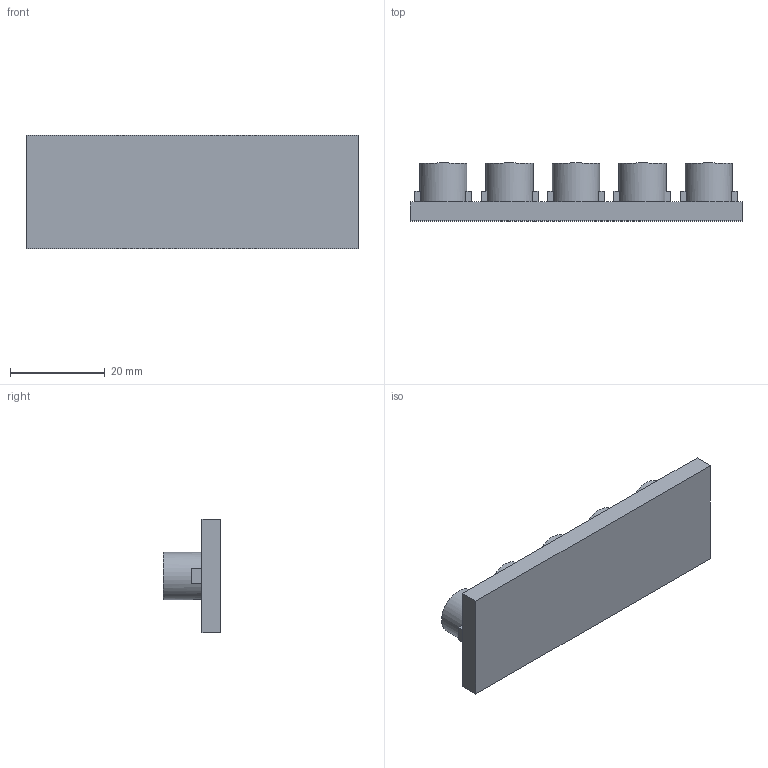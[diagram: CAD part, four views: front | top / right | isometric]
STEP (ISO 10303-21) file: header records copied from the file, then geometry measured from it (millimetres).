
FILE_DESCRIPTION(('FreeCAD Model'),'2;1');
FILE_NAME('Open CASCADE Shape Model','2026-09-11T23:32:08',('FreeCAD'),( 'FreeCAD'),'Open CASCADE STEP processor 7.8','FreeCAD','Unknown');
FILE_SCHEMA(('AUTOMOTIVE_DESIGN { 1 0 10303 214 1 1 1 1 }'));
Length unit declared in the file: millimetre
Products named in the file (1): Open CASCADE STEP translator 7.8 20
Bounding box: 70 x 12.2 x 24 mm (x, y, z)
Volume: 9595.1 mm3; surface area: 5875.3 mm2
Topology: 1 solids, 1 shells, 66 faces, 162 edges, 108 vertices
Faces by surface type: plane 56, cylinder 10
Full cylindrical faces by diameter (mm): 3.8 x1, 3.9 x1, 4 x1, 4.1 x1, 4.2 x1, 10 x5
Entity records: 1956 total; most frequent: CARTESIAN_POINT 337, DIRECTION 336, ORIENTED_EDGE 324, EDGE_CURVE 162, LINE 122, VECTOR 122, VERTEX_POINT 108, AXIS2_PLACEMENT_3D 107
